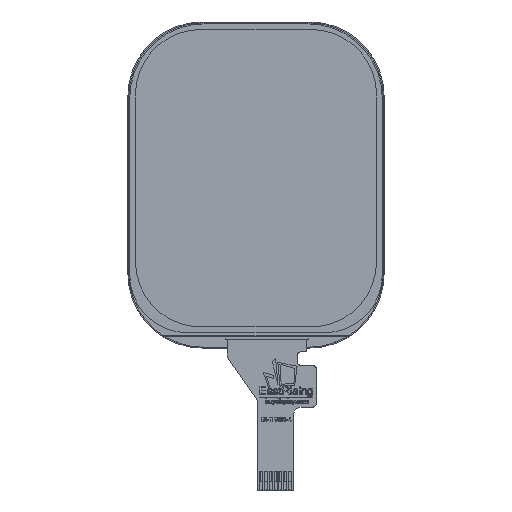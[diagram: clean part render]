
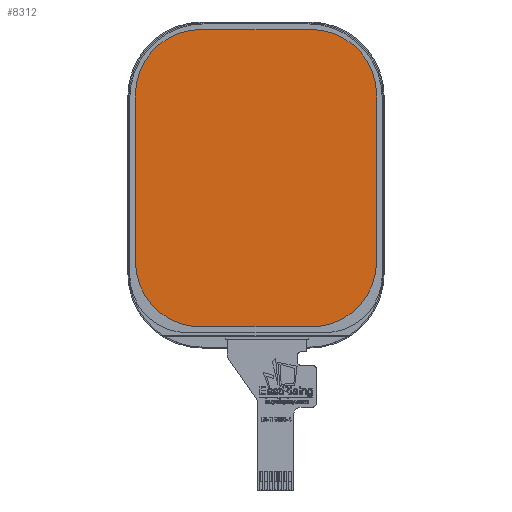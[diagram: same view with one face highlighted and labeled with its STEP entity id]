
A CAD part, top view. The second image highlights one B-rep face of the part: STEP entity #8312.
In plain terms, the highlighted planar face has unit normal (0, 0, 1).
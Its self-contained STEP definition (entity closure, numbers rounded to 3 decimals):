
#839 = VERTEX_POINT ( 'NONE', #16846 ) ;
#1046 = EDGE_CURVE ( 'NONE', #16375, #10205, #25548, .T. ) ;
#1443 = VERTEX_POINT ( 'NONE', #12864 ) ;
#2297 = DIRECTION ( 'NONE',  ( -1., 0., 0. ) ) ;
#2360 = VERTEX_POINT ( 'NONE', #17246 ) ;
#2669 = AXIS2_PLACEMENT_3D ( 'NONE', #3807, #20898, #13066 ) ;
#3807 = CARTESIAN_POINT ( 'NONE',  ( 7.32, 11.96, 1.8 ) ) ;
#3841 = ORIENTED_EDGE ( 'NONE', *, *, #1046, .T. ) ;
#4683 = DIRECTION ( 'NONE',  ( 0., 1., 0. ) ) ;
#4860 = CIRCLE ( 'NONE', #9027, 8.7 ) ;
#4910 = CARTESIAN_POINT ( 'NONE',  ( 16.02, 11.96, 1.8 ) ) ;
#4995 = FACE_OUTER_BOUND ( 'NONE', #18624, .T. ) ;
#5698 = CIRCLE ( 'NONE', #11929, 8.7 ) ;
#6817 = CARTESIAN_POINT ( 'NONE',  ( -7.32, -10.15, 1.8 ) ) ;
#8312 = ADVANCED_FACE ( 'NONE', ( #4995 ), #17376, .F. ) ;
#8787 = CARTESIAN_POINT ( 'NONE',  ( -7.32, 11.96, 1.8 ) ) ;
#8805 = ORIENTED_EDGE ( 'NONE', *, *, #12623, .T. ) ;
#8971 = VERTEX_POINT ( 'NONE', #25690 ) ;
#9027 = AXIS2_PLACEMENT_3D ( 'NONE', #6817, #14298, #24215 ) ;
#9653 = VECTOR ( 'NONE', #13854, 1000. ) ;
#10205 = VERTEX_POINT ( 'NONE', #27116 ) ;
#11929 = AXIS2_PLACEMENT_3D ( 'NONE', #8787, #28489, #15477 ) ;
#12623 = EDGE_CURVE ( 'NONE', #12842, #2360, #5698, .T. ) ;
#12779 = DIRECTION ( 'NONE',  ( -1., 0., 0. ) ) ;
#12842 = VERTEX_POINT ( 'NONE', #26191 ) ;
#12864 = CARTESIAN_POINT ( 'NONE',  ( -16.02, -10.15, 1.8 ) ) ;
#13066 = DIRECTION ( 'NONE',  ( -1., 0., 0. ) ) ;
#13296 = EDGE_CURVE ( 'NONE', #10205, #12842, #20302, .T. ) ;
#13699 = ORIENTED_EDGE ( 'NONE', *, *, #24298, .T. ) ;
#13854 = DIRECTION ( 'NONE',  ( 1., 0., 0. ) ) ;
#14298 = DIRECTION ( 'NONE',  ( 0., 0., 1. ) ) ;
#14523 = ORIENTED_EDGE ( 'NONE', *, *, #13296, .T. ) ;
#14603 = VECTOR ( 'NONE', #4683, 1000. ) ;
#14613 = ORIENTED_EDGE ( 'NONE', *, *, #23159, .T. ) ;
#15477 = DIRECTION ( 'NONE',  ( -1., 0., 0. ) ) ;
#15863 = AXIS2_PLACEMENT_3D ( 'NONE', #22008, #16964, #2297 ) ;
#16304 = CARTESIAN_POINT ( 'NONE',  ( -16.02, 11.541, 1.8 ) ) ;
#16375 = VERTEX_POINT ( 'NONE', #4910 ) ;
#16625 = EDGE_CURVE ( 'NONE', #839, #16375, #29399, .T. ) ;
#16846 = CARTESIAN_POINT ( 'NONE',  ( 16.02, -10.15, 1.8 ) ) ;
#16964 = DIRECTION ( 'NONE',  ( 0., 0., 1. ) ) ;
#17217 = DIRECTION ( 'NONE',  ( -1., 0., 0. ) ) ;
#17246 = CARTESIAN_POINT ( 'NONE',  ( -16.02, 11.96, 1.8 ) ) ;
#17376 = PLANE ( 'NONE',  #18099 ) ;
#18099 = AXIS2_PLACEMENT_3D ( 'NONE', #24511, #29233, #17217 ) ;
#18624 = EDGE_LOOP ( 'NONE', ( #31031, #14613, #29009, #3841, #14523, #8805, #13699, #26198 ) ) ;
#18638 = CARTESIAN_POINT ( 'NONE',  ( 7.32, -18.85, 1.8 ) ) ;
#19063 = LINE ( 'NONE', #26512, #9653 ) ;
#20302 = LINE ( 'NONE', #30841, #29031 ) ;
#20898 = DIRECTION ( 'NONE',  ( 0., 0., 1. ) ) ;
#21351 = LINE ( 'NONE', #16304, #23680 ) ;
#21400 = VERTEX_POINT ( 'NONE', #18638 ) ;
#22008 = CARTESIAN_POINT ( 'NONE',  ( 7.32, -10.15, 1.8 ) ) ;
#23159 = EDGE_CURVE ( 'NONE', #21400, #839, #25715, .T. ) ;
#23680 = VECTOR ( 'NONE', #26194, 1000. ) ;
#24215 = DIRECTION ( 'NONE',  ( -1., 0., 0. ) ) ;
#24298 = EDGE_CURVE ( 'NONE', #2360, #1443, #21351, .T. ) ;
#24511 = CARTESIAN_POINT ( 'NONE',  ( 6.901, 11.541, 1.8 ) ) ;
#24927 = EDGE_CURVE ( 'NONE', #8971, #21400, #19063, .T. ) ;
#25548 = CIRCLE ( 'NONE', #2669, 8.7 ) ;
#25690 = CARTESIAN_POINT ( 'NONE',  ( -7.32, -18.85, 1.8 ) ) ;
#25715 = CIRCLE ( 'NONE', #15863, 8.7 ) ;
#26191 = CARTESIAN_POINT ( 'NONE',  ( -7.32, 20.66, 1.8 ) ) ;
#26194 = DIRECTION ( 'NONE',  ( 0., -1., 0. ) ) ;
#26198 = ORIENTED_EDGE ( 'NONE', *, *, #30967, .T. ) ;
#26512 = CARTESIAN_POINT ( 'NONE',  ( 6.901, -18.85, 1.8 ) ) ;
#26951 = CARTESIAN_POINT ( 'NONE',  ( 16.02, 11.541, 1.8 ) ) ;
#27116 = CARTESIAN_POINT ( 'NONE',  ( 7.32, 20.66, 1.8 ) ) ;
#28489 = DIRECTION ( 'NONE',  ( 0., 0., 1. ) ) ;
#29009 = ORIENTED_EDGE ( 'NONE', *, *, #16625, .T. ) ;
#29031 = VECTOR ( 'NONE', #12779, 1000. ) ;
#29233 = DIRECTION ( 'NONE',  ( 0., 0., -1. ) ) ;
#29399 = LINE ( 'NONE', #26951, #14603 ) ;
#30841 = CARTESIAN_POINT ( 'NONE',  ( 6.901, 20.66, 1.8 ) ) ;
#30967 = EDGE_CURVE ( 'NONE', #1443, #8971, #4860, .T. ) ;
#31031 = ORIENTED_EDGE ( 'NONE', *, *, #24927, .T. ) ;
